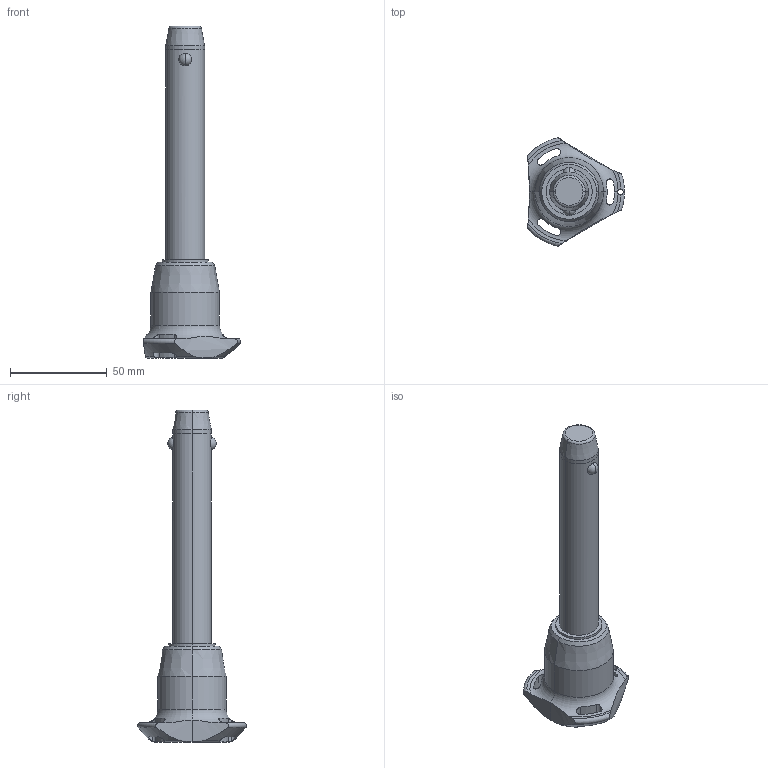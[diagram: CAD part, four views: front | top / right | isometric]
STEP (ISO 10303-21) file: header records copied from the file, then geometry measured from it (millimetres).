
FILE_DESCRIPTION (( 'STEP AP203' ), '1' );
FILE_NAME ('QR1716.M20-100-T.step', '2025-11-13T10:43:44', ( '' ), ( '' ), 'SwSTEP 2.0', 'SolidWorks 2019', '' );
FILE_SCHEMA (( 'CONFIG_CONTROL_DESIGN' ));
Length unit declared in the file: millimetre
Products named in the file (1): QR1716.M20-100-T
Bounding box: 50.04 x 56.02 x 171.2 mm (x, y, z)
Volume: 88596.8 mm3; surface area: 17359.9 mm2
Topology: 1 solids, 1 shells, 68 faces, 182 edges, 115 vertices
Faces by surface type: cylinder 32, cone 14, torus 11, sphere 6, plane 5
Entity records: 2938 total; most frequent: CARTESIAN_POINT 1192, ORIENTED_EDGE 364, DIRECTION 345, EDGE_CURVE 182, AXIS2_PLACEMENT_3D 154, VERTEX_POINT 115, CIRCLE 85, EDGE_LOOP 75
